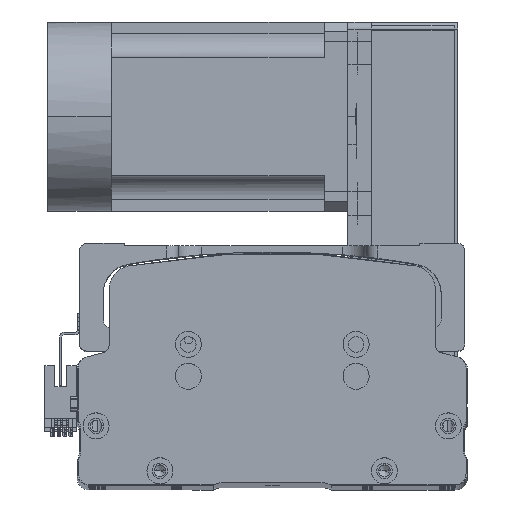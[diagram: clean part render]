
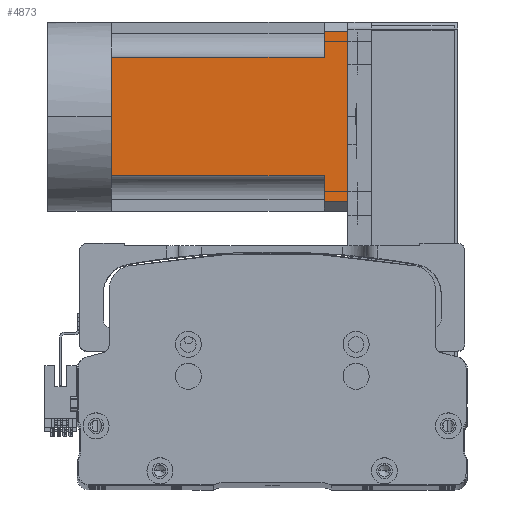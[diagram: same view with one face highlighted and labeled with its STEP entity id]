
A CAD part, top view. The second image highlights one B-rep face of the part: STEP entity #4873.
In plain terms, the highlighted planar face has unit normal (0, 0, 1) as drawn and (0, 0, -1) by its records, which use the part's own axes.
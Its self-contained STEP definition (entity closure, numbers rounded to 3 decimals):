
#271 = CARTESIAN_POINT ( 'NONE',  ( 25., 0., -40. ) ) ;
#514 = CARTESIAN_POINT ( 'NONE',  ( 36., -27., -40. ) ) ;
#3508 = VECTOR ( 'NONE', #58497, 1000. ) ;
#4873 = ADVANCED_FACE ( 'NONE', ( #58537 ), #23716, .T. ) ;
#8985 = ORIENTED_EDGE ( 'NONE', *, *, #37225, .T. ) ;
#9326 = ORIENTED_EDGE ( 'NONE', *, *, #31904, .T. ) ;
#10405 = VERTEX_POINT ( 'NONE', #52241 ) ;
#11177 = CARTESIAN_POINT ( 'NONE',  ( -40., 90., -40. ) ) ;
#11843 = VECTOR ( 'NONE', #38301, 1000. ) ;
#13874 = LINE ( 'NONE', #49543, #25647 ) ;
#13886 = VERTEX_POINT ( 'NONE', #24493 ) ;
#14286 = EDGE_CURVE ( 'NONE', #41103, #10405, #24602, .T. ) ;
#15385 = VERTEX_POINT ( 'NONE', #27623 ) ;
#15714 = ORIENTED_EDGE ( 'NONE', *, *, #46961, .T. ) ;
#16579 = DIRECTION ( 'NONE',  ( 0., -1., 0. ) ) ;
#16736 = DIRECTION ( 'NONE',  ( 0., 1., 0. ) ) ;
#16850 = LINE ( 'NONE', #23457, #3508 ) ;
#17663 = DIRECTION ( 'NONE',  ( -1., 0., 0. ) ) ;
#18327 = VECTOR ( 'NONE', #46477, 1000. ) ;
#19000 = VECTOR ( 'NONE', #16579, 1000. ) ;
#20911 = VECTOR ( 'NONE', #60716, 1000. ) ;
#21291 = AXIS2_PLACEMENT_3D ( 'NONE', #48692, #58534, #28767 ) ;
#22151 = ORIENTED_EDGE ( 'NONE', *, *, #29691, .T. ) ;
#22556 = VERTEX_POINT ( 'NONE', #271 ) ;
#23457 = CARTESIAN_POINT ( 'NONE',  ( -40., 90., -40. ) ) ;
#23716 = PLANE ( 'NONE',  #21291 ) ;
#24493 = CARTESIAN_POINT ( 'NONE',  ( -36., 90., -40. ) ) ;
#24602 = LINE ( 'NONE', #62523, #48165 ) ;
#25148 = LINE ( 'NONE', #53140, #11843 ) ;
#25624 = VECTOR ( 'NONE', #17663, 1000. ) ;
#25647 = VECTOR ( 'NONE', #34464, 1000. ) ;
#26031 = LINE ( 'NONE', #31891, #19000 ) ;
#27333 = DIRECTION ( 'NONE',  ( -1., 0., 0. ) ) ;
#27369 = EDGE_CURVE ( 'NONE', #13886, #40781, #13874, .T. ) ;
#27623 = CARTESIAN_POINT ( 'NONE',  ( 36., 100., -40. ) ) ;
#28767 = DIRECTION ( 'NONE',  ( -1., 0., 0. ) ) ;
#29646 = LINE ( 'NONE', #46761, #56262 ) ;
#29691 = EDGE_CURVE ( 'NONE', #22556, #41103, #40594, .T. ) ;
#31876 = VERTEX_POINT ( 'NONE', #36179 ) ;
#31891 = CARTESIAN_POINT ( 'NONE',  ( 25., -27., -40. ) ) ;
#31904 = EDGE_CURVE ( 'NONE', #59494, #56045, #34780, .T. ) ;
#32488 = EDGE_LOOP ( 'NONE', ( #40814, #8985, #9326, #39807, #22151, #63476, #58683, #15714, #46238 ) ) ;
#32508 = EDGE_CURVE ( 'NONE', #56045, #22556, #26031, .T. ) ;
#33635 = CARTESIAN_POINT ( 'NONE',  ( 0., 0., -40. ) ) ;
#34464 = DIRECTION ( 'NONE',  ( 0., 1., 0. ) ) ;
#34780 = LINE ( 'NONE', #11177, #18327 ) ;
#36179 = CARTESIAN_POINT ( 'NONE',  ( -25., 90., -40. ) ) ;
#37225 = EDGE_CURVE ( 'NONE', #15385, #59494, #47622, .T. ) ;
#38301 = DIRECTION ( 'NONE',  ( -1., 0., 0. ) ) ;
#39807 = ORIENTED_EDGE ( 'NONE', *, *, #32508, .T. ) ;
#40594 = LINE ( 'NONE', #42479, #25624 ) ;
#40781 = VERTEX_POINT ( 'NONE', #60999 ) ;
#40814 = ORIENTED_EDGE ( 'NONE', *, *, #63399, .F. ) ;
#41103 = VERTEX_POINT ( 'NONE', #33635 ) ;
#42479 = CARTESIAN_POINT ( 'NONE',  ( -40., 0., -40. ) ) ;
#46238 = ORIENTED_EDGE ( 'NONE', *, *, #27369, .T. ) ;
#46477 = DIRECTION ( 'NONE',  ( -1., 0., 0. ) ) ;
#46761 = CARTESIAN_POINT ( 'NONE',  ( -25., -27., -40. ) ) ;
#46961 = EDGE_CURVE ( 'NONE', #31876, #13886, #16850, .T. ) ;
#47622 = LINE ( 'NONE', #514, #20911 ) ;
#47669 = CARTESIAN_POINT ( 'NONE',  ( 25., 90., -40. ) ) ;
#48165 = VECTOR ( 'NONE', #27333, 1000. ) ;
#48692 = CARTESIAN_POINT ( 'NONE',  ( -40., -27., -40. ) ) ;
#49543 = CARTESIAN_POINT ( 'NONE',  ( -36., -27., -40. ) ) ;
#52241 = CARTESIAN_POINT ( 'NONE',  ( -25., 0., -40. ) ) ;
#53140 = CARTESIAN_POINT ( 'NONE',  ( -40., 100., -40. ) ) ;
#56045 = VERTEX_POINT ( 'NONE', #47669 ) ;
#56262 = VECTOR ( 'NONE', #16736, 1000. ) ;
#56400 = EDGE_CURVE ( 'NONE', #10405, #31876, #29646, .T. ) ;
#58497 = DIRECTION ( 'NONE',  ( -1., 0., 0. ) ) ;
#58534 = DIRECTION ( 'NONE',  ( 0., 0., -1. ) ) ;
#58537 = FACE_OUTER_BOUND ( 'NONE', #32488, .T. ) ;
#58683 = ORIENTED_EDGE ( 'NONE', *, *, #56400, .T. ) ;
#59494 = VERTEX_POINT ( 'NONE', #63716 ) ;
#60716 = DIRECTION ( 'NONE',  ( 0., -1., 0. ) ) ;
#60999 = CARTESIAN_POINT ( 'NONE',  ( -36., 100., -40. ) ) ;
#62523 = CARTESIAN_POINT ( 'NONE',  ( -40., 0., -40. ) ) ;
#63399 = EDGE_CURVE ( 'NONE', #15385, #40781, #25148, .T. ) ;
#63476 = ORIENTED_EDGE ( 'NONE', *, *, #14286, .T. ) ;
#63716 = CARTESIAN_POINT ( 'NONE',  ( 36., 90., -40. ) ) ;
